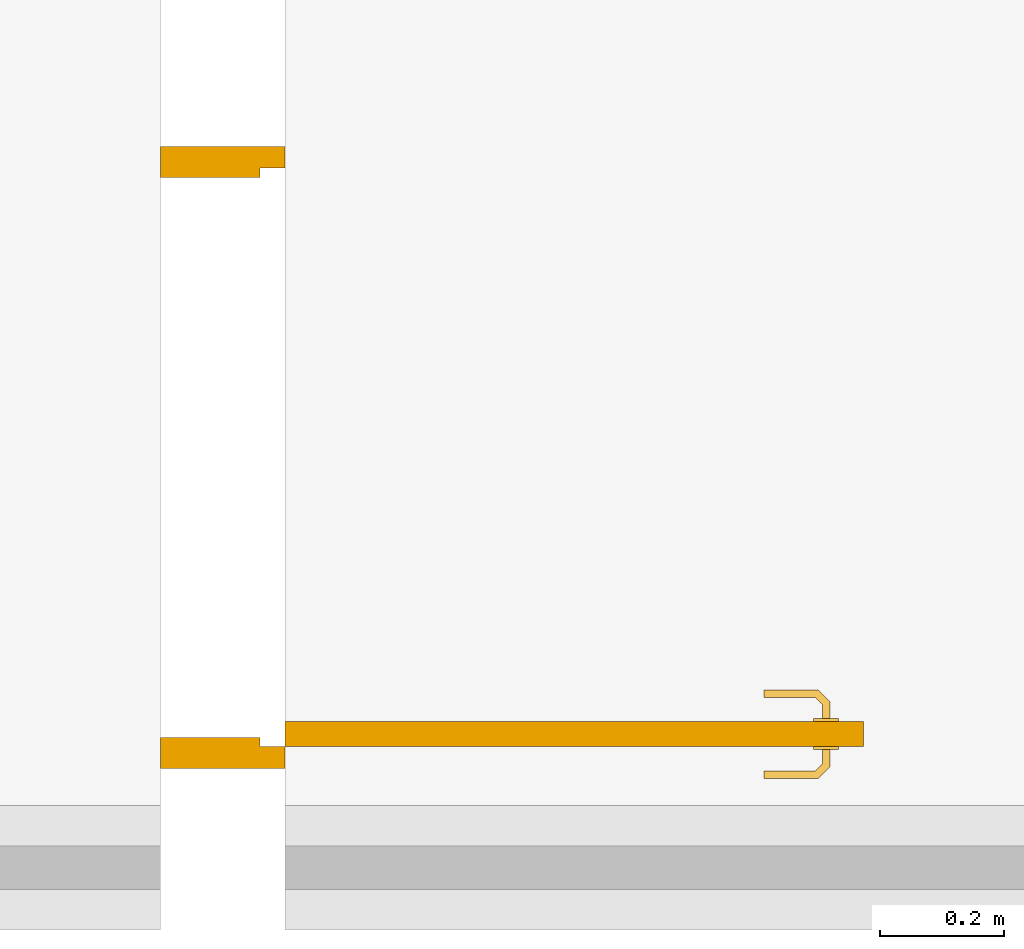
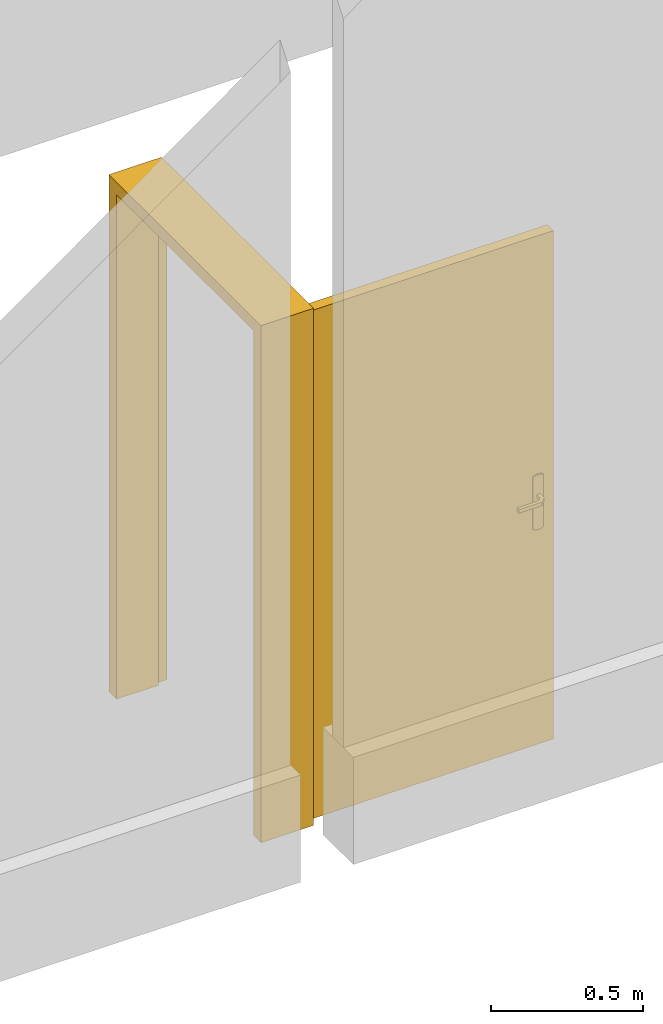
# One storey, part 17 of 18: 1 door.
"""IFC2X3 building model written with IfcOpenShell, lengths in metres."""

import ifcopenshell
import ifcopenshell.guid

model = None  # the IFC model being written
_history = None  # IfcOwnerHistory: only IFC2X3 demands one
_inside = {}  # id of a spatial element -> (the spatial element, [elements in it])
_under = {}  # id of a project, library or spatial element -> (it, [spatial elements below it])
_declared = {}  # id of a project -> (the project, [libraries it declares])
_typed = {}  # id of a type object -> (the type object, [elements of that type])
_made_of = {}  # id of a material, layer set ... -> (it, [elements and type objects made of it])


def new_model(schema):
    """Start an empty IFC model of exactly this schema.

    Asked for "IFC4X3", IfcOpenShell would pick the latest addendum, in which some entities
    have other attributes; the version numbers below select the first issue.
    IFC2X3 requires an IfcOwnerHistory on every rooted entity: one is made here for all.
    """
    global model, _history
    if schema == "IFC4X3":
        model = ifcopenshell.file(schema_version=(4, 3, 0, 0))
    else:
        model = ifcopenshell.file(schema=schema)
    _inside.clear()
    _under.clear()
    _declared.clear()
    _typed.clear()
    _made_of.clear()
    _history = None
    if model.schema == "IFC2X3":
        org = make("IfcOrganization", Name="unknown")
        user = make(
            "IfcPersonAndOrganization",
            ThePerson=make("IfcPerson", FamilyName="unknown"),
            TheOrganization=org,
        )
        app = make(
            "IfcApplication",
            ApplicationDeveloper=org,
            Version="unknown",
            ApplicationFullName="unknown",
            ApplicationIdentifier="unknown",
        )
        _history = make(
            "IfcOwnerHistory",
            OwningUser=user,
            OwningApplication=app,
            ChangeAction="ADDED",
            CreationDate=0,
        )
    return model


def make(cls, **values):
    """One entity of the class cls with the attributes given. An attribute that is None is left unset."""
    return model.create_entity(
        cls, **{name: value for name, value in values.items() if value is not None}
    )


def entity(cls, *values):
    """Any entity or typed value of the class cls, its attributes in the order of the schema. None: left unset."""
    e = model.create_entity(cls)
    for i, value in enumerate(values):
        if value is not None:
            e[i] = value
    return e


def rooted(cls, **values):
    """An entity with a GlobalId (a new one), such as an element, a storey or a relation."""
    return make(cls, GlobalId=ifcopenshell.guid.new(), OwnerHistory=_history, **values)


def si_unit(unit_type, name, prefix=None):
    """IfcSIUnit, for example si_unit("LENGTHUNIT", "METRE", prefix="MILLI")."""
    return make("IfcSIUnit", UnitType=unit_type, Prefix=prefix, Name=name)


def converted_unit(unit_type, name, factor, base, dimensions=None, offset=None):
    """IfcConversionBasedUnit, such as the inch: factor (a typed value) times the base unit."""
    return make(
        "IfcConversionBasedUnit"
        if offset is None
        else "IfcConversionBasedUnitWithOffset",
        ConversionOffset=offset,
        Dimensions=None
        if dimensions is None
        else entity("IfcDimensionalExponents", *dimensions),
        UnitType=unit_type,
        Name=name,
        ConversionFactor=make(
            "IfcMeasureWithUnit", ValueComponent=factor, UnitComponent=base
        ),
    )


def derived_unit(unit_type, elements):
    """IfcDerivedUnit: a product of units, each with its exponent."""
    return make(
        "IfcDerivedUnit",
        Elements=[
            make("IfcDerivedUnitElement", Unit=unit, Exponent=power)
            for unit, power in elements
        ],
        UnitType=unit_type,
    )


def assignment(units):
    """IfcUnitAssignment: the units of a project."""
    return None if units is None else make("IfcUnitAssignment", Units=units)


def point(xyz):
    """IfcCartesianPoint."""
    return None if xyz is None else make("IfcCartesianPoint", Coordinates=xyz)


def direction(xyz):
    """IfcDirection."""
    return None if xyz is None else make("IfcDirection", DirectionRatios=xyz)


def frame(location, z_axis=None, x_axis=None):
    """IfcAxis2Placement3D, a coordinate frame: its origin and axes. An axis left out is left unset."""
    return make(
        "IfcAxis2Placement3D",
        Location=point(location),
        Axis=direction(z_axis),
        RefDirection=direction(x_axis),
    )


def origin():
    """The frame at (0, 0, 0) with its axes left unset."""
    return frame((0.0, 0.0, 0.0))


def place(relative_to, where):
    """IfcLocalPlacement: puts the frame where relative to a parent placement (None: the world)."""
    return make(
        "IfcLocalPlacement", PlacementRelTo=relative_to, RelativePlacement=where
    )


def context(
    kind, dimensions, precision=None, world=None, true_north=None, identifier=None
):
    """IfcGeometricRepresentationContext, for example the 3D "Model" context."""
    return make(
        "IfcGeometricRepresentationContext",
        ContextIdentifier=identifier,
        ContextType=kind,
        CoordinateSpaceDimension=dimensions,
        Precision=precision,
        WorldCoordinateSystem=world,
        TrueNorth=true_north,
    )


def subcontext(parent, identifier, kind, view, scale=None):
    """IfcGeometricRepresentationSubContext, for example "Body" below "Model"."""
    return make(
        "IfcGeometricRepresentationSubContext",
        ContextIdentifier=identifier,
        ContextType=kind,
        ParentContext=parent,
        TargetScale=scale,
        TargetView=view,
    )


def project(units=None, contexts=None):
    """IfcProject with its units and contexts."""
    return rooted(
        "IfcProject",
        Name="project",
        RepresentationContexts=contexts,
        UnitsInContext=assignment(units),
    )


def spatial(cls, under=None, at=None, **own):
    """A site, building, storey or space (cls), placed at a placement, below another one or the project."""
    s = rooted(cls, ObjectPlacement=at, **own)
    if under is not None:
        _under.setdefault(under.id(), (under, []))[1].append(s)
    return s


def faces_of(points, faces, orient=None, outer=None):
    """IfcFace entities. A face is a list of loops; a loop is a list of indices into points, from 0.

    orient and outer hold one flag for each loop. By default every Orientation is true, the
    first loop of a face is its IfcFaceOuterBound and the others are IfcFaceBound.
    """
    made = []
    for i, loops in enumerate(faces):
        bounds = []
        for j, loop in enumerate(loops):
            is_outer = j == 0 if outer is None else outer[i][j]
            bounds.append(
                make(
                    "IfcFaceOuterBound" if is_outer else "IfcFaceBound",
                    Bound=make("IfcPolyLoop", Polygon=[points[k] for k in loop]),
                    Orientation=True if orient is None else orient[i][j],
                )
            )
        made.append(make("IfcFace", Bounds=bounds))
    return made


def faceted_brep(points, faces, orient=None, outer=None, voids=None):
    """IfcFacetedBrep: a solid bounded by flat faces; with voids (closed shells), ...WithVoids."""
    shared = [point(p) for p in points]
    hull = make("IfcClosedShell", CfsFaces=faces_of(shared, faces, orient, outer))
    if voids is None:
        return make("IfcFacetedBrep", Outer=hull)
    return make(
        "IfcFacetedBrepWithVoids",
        Outer=hull,
        Voids=[
            make(cls, CfsFaces=faces_of(shared, fs, o, b)) for cls, fs, o, b in voids
        ],
    )


def shape(context_of_items, identifier, shape_type, items):
    """IfcShapeRepresentation: the items that make up one representation, for example the "Body"."""
    return make(
        "IfcShapeRepresentation",
        ContextOfItems=context_of_items,
        RepresentationIdentifier=identifier,
        RepresentationType=shape_type,
        Items=items,
    )


def source(mapping_origin, context_of_items, identifier, shape_type, items):
    """IfcRepresentationMap: a shape defined once, which mapped items show again and again."""
    return make(
        "IfcRepresentationMap",
        MappingOrigin=mapping_origin,
        MappedRepresentation=shape(context_of_items, identifier, shape_type, items),
    )


def transform(
    local_origin,
    x_axis=None,
    y_axis=None,
    z_axis=None,
    scale=None,
    scale2=None,
    scale3=None,
    uniform=True,
):
    """IfcCartesianTransformationOperator3D, or its non-uniform kind. x_axis, y_axis, z_axis: its Axis1, 2, 3."""
    if uniform:
        return make(
            "IfcCartesianTransformationOperator3D",
            Axis1=direction(x_axis),
            Axis2=direction(y_axis),
            LocalOrigin=point(local_origin),
            Scale=scale,
            Axis3=direction(z_axis),
        )
    return make(
        "IfcCartesianTransformationOperator3DnonUniform",
        Axis1=direction(x_axis),
        Axis2=direction(y_axis),
        LocalOrigin=point(local_origin),
        Scale=scale,
        Axis3=direction(z_axis),
        Scale2=scale2,
        Scale3=scale3,
    )


def mapped(mapping_source, mapping_target):
    """IfcMappedItem: shows the shape of a source again, moved by a transform."""
    return make(
        "IfcMappedItem", MappingSource=mapping_source, MappingTarget=mapping_target
    )


def material(Name=None, Category=None):
    """IfcMaterial."""
    return make("IfcMaterial", Name=Name, Category=Category)


def made_of(thing, what):
    """Note that an element or type object is made of a material, layer set ...; save() writes the relation."""
    if what is not None:
        _made_of.setdefault(what.id(), (what, []))[1].append(thing)
    return thing


def type_object(cls, material=None, **own):
    """A type object (cls), such as IfcWallType, which elements share."""
    return made_of(rooted(cls, **own), material)


def type_shapes(of_type, sources):
    """Give a type object the sources (RepresentationMaps) that its elements show as mapped items."""
    of_type.RepresentationMaps = sources


def element(
    cls,
    number,
    at=None,
    inside=None,
    cuts=None,
    type_object=None,
    material=None,
    context=None,
    identifier="Body",
    shape_type=None,
    held_by="IfcProductDefinitionShape",
    body=None,
    shapes=None,
    **own,
):
    """One element of the class cls, such as IfcWall. Its Tag is "e" and its number.

    at: its placement. inside: the storey or other place that contains it. cuts: it is an
    opening in that element (IfcRelVoidsElement). A single representation is given by context,
    identifier, shape_type and body (its items); several are given by shapes. held_by: the class
    of the entity that holds the representations. save() writes the other relations.
    """
    e = rooted(cls, Tag="e%d" % number, ObjectPlacement=at, **own)
    if body is not None:
        shapes = [shape(context, identifier, shape_type, body)]
    if shapes is not None:
        e.Representation = make(held_by, Representations=shapes)
    if inside is not None:
        _inside.setdefault(inside.id(), (inside, []))[1].append(e)
    if cuts is not None:
        rooted(
            "IfcRelVoidsElement", RelatingBuildingElement=cuts, RelatedOpeningElement=e
        )
    if type_object is not None:
        _typed.setdefault(type_object.id(), (type_object, []))[1].append(e)
    return made_of(e, material)


def aggregate(whole, parts):
    """IfcRelAggregates: a whole, such as a stair, and the parts it consists of."""
    return rooted("IfcRelAggregates", RelatingObject=whole, RelatedObjects=parts)


def save(model, path):
    """Write the relations noted so far, then the file.

    IfcRelAggregates (storeys below a building ...), IfcRelContainedInSpatialStructure (elements
    in a storey), IfcRelDefinesByType, IfcRelAssociatesMaterial and IfcRelDeclares: one each for
    every whole, place, type object, material and project.
    """
    for whole, parts in _under.values():
        aggregate(whole, parts)
    for where, things in _inside.values():
        rooted(
            "IfcRelContainedInSpatialStructure",
            RelatedElements=things,
            RelatingStructure=where,
        )
    for kind, things in _typed.values():
        rooted("IfcRelDefinesByType", RelatedObjects=things, RelatingType=kind)
    for what, things in _made_of.values():
        rooted("IfcRelAssociatesMaterial", RelatedObjects=things, RelatingMaterial=what)
    for by, libraries in _declared.values():
        rooted("IfcRelDeclares", RelatingContext=by, RelatedDefinitions=libraries)
    model.write(path)


model = new_model("IFC2X3")

# Units and contexts
model_context = context("Model", 3, precision=1e-05, world=origin(), true_north=direction((6.12303176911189e-17, 1.0)))
body_context = subcontext(model_context, "Body", "Model", "MODEL_VIEW")
ifc_project = project(units=[si_unit("LENGTHUNIT", "METRE"), si_unit("AREAUNIT", "SQUARE_METRE"), si_unit("VOLUMEUNIT", "CUBIC_METRE"), converted_unit("PLANEANGLEUNIT", "DEGREE", entity("IfcRatioMeasure", 0.0174532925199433), si_unit("PLANEANGLEUNIT", "RADIAN"), dimensions=[0, 0, 0, 0, 0, 0, 0]), si_unit("MASSUNIT", "GRAM", prefix="KILO"), derived_unit("MASSDENSITYUNIT", [(si_unit("MASSUNIT", "GRAM", prefix="KILO"), 1), (si_unit("LENGTHUNIT", "METRE"), -3)]), si_unit("TIMEUNIT", "SECOND"), si_unit("FREQUENCYUNIT", "HERTZ"), si_unit("THERMODYNAMICTEMPERATUREUNIT", "DEGREE_CELSIUS"), derived_unit("THERMALTRANSMITTANCEUNIT", [(si_unit("MASSUNIT", "GRAM", prefix="KILO"), 1), (si_unit("THERMODYNAMICTEMPERATUREUNIT", "KELVIN"), -1), (si_unit("TIMEUNIT", "SECOND"), -3)]), derived_unit("VOLUMETRICFLOWRATEUNIT", [(si_unit("LENGTHUNIT", "METRE"), 3), (si_unit("TIMEUNIT", "SECOND"), -1)]), si_unit("ELECTRICCURRENTUNIT", "AMPERE"), si_unit("ELECTRICVOLTAGEUNIT", "VOLT"), si_unit("POWERUNIT", "WATT"), si_unit("FORCEUNIT", "NEWTON", prefix="KILO"), si_unit("ILLUMINANCEUNIT", "LUX"), si_unit("LUMINOUSFLUXUNIT", "LUMEN"), si_unit("LUMINOUSINTENSITYUNIT", "CANDELA"), derived_unit("USERDEFINED", [(si_unit("MASSUNIT", "GRAM", prefix="KILO"), -1), (si_unit("LENGTHUNIT", "METRE"), -2), (si_unit("TIMEUNIT", "SECOND"), 3), (si_unit("LUMINOUSFLUXUNIT", "LUMEN"), 1)]), derived_unit("LINEARVELOCITYUNIT", [(si_unit("LENGTHUNIT", "METRE"), 1), (si_unit("TIMEUNIT", "SECOND"), -1)]), si_unit("PRESSUREUNIT", "PASCAL"), derived_unit("USERDEFINED", [(si_unit("LENGTHUNIT", "METRE"), -2), (si_unit("MASSUNIT", "GRAM", prefix="KILO"), 1), (si_unit("TIMEUNIT", "SECOND"), -2)])], contexts=[model_context])

# Site, building, storey
site_placement = place(None, origin())
site = spatial("IfcSite", under=ifc_project, at=site_placement, Name="Surface", CompositionType="ELEMENT")
building_placement = place(site_placement, origin())
building = spatial("IfcBuilding", under=site, at=building_placement, Name="ExPREF", CompositionType="ELEMENT")
storey_placement = place(building_placement, frame((0.0, 0.0, -4.62)))
storey = spatial("IfcBuildingStorey", under=building, at=storey_placement, Name="R-1", CompositionType="ELEMENT", Elevation=-4.62)

# Door
ifc_material = material(Name="AA-Blanc satiné")
door_style = type_object("IfcDoorStyle", Name="PP (0.93m x 2.04m)", ConstructionType="NOTDEFINED", OperationType="SINGLE_SWING_RIGHT", ParameterTakesPrecedence=False, Sizeable=False, material=ifc_material)
shared_shape = source(origin(), body_context, "Body", "Brep", [
    faceted_brep([(0.150000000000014, -0.867974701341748, 0.992219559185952), (0.150000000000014, -0.872025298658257, 0.99221955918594), (0.150000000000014, -0.876000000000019, 0.992999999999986), (0.150000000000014, -0.876000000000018, 1.007), (0.150000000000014, -0.872025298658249, 1.00778044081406), (0.150000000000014, -0.867974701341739, 1.00778044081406), (0.150000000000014, -0.863999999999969, 1.007), (0.150000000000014, -0.863999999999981, 0.993000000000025), (0.172485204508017, -0.863999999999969, 1.007), (0.172485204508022, -0.863999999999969, 0.993000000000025), (0.174131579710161, -0.867974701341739, 1.00778044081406), (0.175809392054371, -0.872025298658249, 1.00778044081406), (0.191995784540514, -0.855838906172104, 1.00778044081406), (0.187945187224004, -0.854161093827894, 1.00778044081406), (0.177455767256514, -0.876000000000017, 1.007), (0.177455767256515, -0.876000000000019, 0.992999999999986), (0.175809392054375, -0.872025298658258, 0.99221955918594), (0.174131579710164, -0.867974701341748, 0.992219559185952), (0.187945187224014, -0.854161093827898, 0.992219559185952), (0.191995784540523, -0.855838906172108, 0.99221955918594), (0.183970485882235, -0.852514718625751, 1.007), (0.183970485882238, -0.852514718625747, 0.993000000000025), (0.195970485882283, -0.857485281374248, 1.007), (0.195970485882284, -0.857485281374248, 0.992999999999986), (0.187945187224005, -0.769954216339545, 1.00778044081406), (0.191995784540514, -0.769954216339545, 1.00778044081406), (0.195970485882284, -0.769954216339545, 1.007), (0.195970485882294, -0.769954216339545, 0.992999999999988), (0.191995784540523, -0.769954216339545, 0.99221955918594), (0.187945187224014, -0.769954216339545, 0.992219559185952), (0.183970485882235, -0.769954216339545, 0.993000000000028), (0.183970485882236, -0.769954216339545, 1.007), (0.183970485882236, -0.811234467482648, 1.007), (0.183970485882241, -0.811234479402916, 0.993000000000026), (0.189970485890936, -0.812057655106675, 1.0078786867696), (0.195970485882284, -0.817554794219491, 1.007), (0.195970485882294, -0.8175547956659, 0.992999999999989), (0.189970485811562, -0.812057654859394, 0.992121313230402)], [[[0, 1, 2, 3, 4, 5, 6, 7]], [[8, 9, 7, 6]], [[5, 10, 8, 6]], [[5, 4, 11, 12, 13, 10]], [[3, 14, 11, 4]], [[14, 3, 2, 15]], [[2, 1, 16, 15]], [[1, 0, 17, 18, 19, 16]], [[0, 7, 9, 17]], [[20, 21, 9, 8]], [[8, 10, 13, 20]], [[14, 22, 12, 11]], [[23, 22, 14, 15]], [[15, 16, 19, 23]], [[17, 9, 21, 18]], [[24, 25, 26, 27, 28, 29, 30, 31]], [[21, 20, 32, 31, 30, 33]], [[34, 24, 32]], [[25, 34, 35]], [[13, 32, 20]], [[24, 31, 32]], [[25, 35, 26]], [[35, 12, 22]], [[34, 12, 35]], [[34, 13, 12]], [[34, 32, 13]], [[24, 34, 25]], [[22, 23, 36, 27, 26, 35]], [[37, 28, 36]], [[36, 28, 27]], [[36, 23, 19]], [[18, 33, 37]], [[33, 18, 21]], [[30, 29, 33]], [[37, 29, 28]], [[37, 33, 29]], [[37, 36, 19]], [[18, 37, 19]]]),
    faceted_brep([(0.100000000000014, -0.867974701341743, 1.00778044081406), (0.100000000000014, -0.872025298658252, 1.00778044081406), (0.100000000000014, -0.876000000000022, 1.00699999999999), (0.100000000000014, -0.876000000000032, 0.992999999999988), (0.100000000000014, -0.87202529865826, 0.99221955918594), (0.100000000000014, -0.867974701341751, 0.992219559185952), (0.100000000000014, -0.863999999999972, 0.993000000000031), (0.100000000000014, -0.863999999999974, 1.007), (0.0739954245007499, -0.872025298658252, 1.00778044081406), (0.0723490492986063, -0.876000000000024, 1.007), (0.0756732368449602, -0.867974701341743, 1.00778044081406), (0.0619971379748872, -0.854298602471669, 1.00778044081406), (0.0579465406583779, -0.855976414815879, 1.00778044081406), (0.0773196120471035, -0.863999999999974, 1.007), (0.0773196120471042, -0.863999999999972, 0.993000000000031), (0.0756732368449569, -0.867974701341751, 0.992219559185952), (0.0739954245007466, -0.87202529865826, 0.99221955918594), (0.0579465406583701, -0.855976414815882, 0.99221955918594), (0.0619971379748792, -0.854298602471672, 0.992219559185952), (0.0723490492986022, -0.876000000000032, 0.992999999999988), (0.053971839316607, -0.857622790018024, 1.007), (0.0659718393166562, -0.852652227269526, 1.007), (0.0659718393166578, -0.852652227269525, 0.993000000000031), (0.0539718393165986, -0.857622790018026, 0.992999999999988), (0.0539718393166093, -0.769981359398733, 1.007), (0.0579465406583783, -0.769981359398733, 1.00778044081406), (0.0619971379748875, -0.769981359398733, 1.00778044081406), (0.0659718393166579, -0.769981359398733, 1.00699999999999), (0.0659718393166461, -0.769981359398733, 0.993000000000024), (0.0619971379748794, -0.769981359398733, 0.992219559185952), (0.0579465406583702, -0.769981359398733, 0.99221955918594), (0.0539718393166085, -0.769981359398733, 0.992999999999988), (0.059971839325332, -0.812139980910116, 1.0078786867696), (0.0539718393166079, -0.817692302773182, 1.007), (0.065971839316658, -0.811316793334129, 1.007), (0.0659718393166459, -0.811316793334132, 0.993000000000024), (0.0599718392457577, -0.812139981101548, 0.992121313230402), (0.0539718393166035, -0.817692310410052, 0.992999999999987)], [[[0, 1, 2, 3, 4, 5, 6, 7]], [[2, 1, 8, 9]], [[1, 0, 10, 11, 12, 8]], [[0, 7, 13, 10]], [[14, 13, 7, 6]], [[5, 15, 14, 6]], [[5, 4, 16, 17, 18, 15]], [[3, 19, 16, 4]], [[9, 19, 3, 2]], [[9, 8, 12, 20]], [[10, 13, 21, 11]], [[22, 21, 13, 14]], [[14, 15, 18, 22]], [[16, 19, 23, 17]], [[20, 23, 19, 9]], [[24, 25, 26, 27, 28, 29, 30, 31]], [[32, 25, 33]], [[33, 25, 24]], [[33, 20, 12]], [[11, 34, 32]], [[34, 11, 21]], [[27, 26, 34]], [[32, 26, 25]], [[32, 34, 26]], [[32, 33, 12]], [[11, 32, 12]], [[21, 22, 35, 28, 27, 34]], [[36, 29, 35]], [[30, 36, 37]], [[18, 35, 22]], [[29, 28, 35]], [[30, 37, 31]], [[37, 17, 23]], [[36, 17, 37]], [[36, 18, 17]], [[36, 35, 18]], [[29, 36, 30]], [[23, 20, 33, 24, 31, 37]]]),
    faceted_brep([(0.145000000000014, -0.89, 0.870000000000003), (0.145000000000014, -0.89, 1.08), (0.145000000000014, -0.880352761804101, 1.08399601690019), (0.145000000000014, -0.870000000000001, 1.08535898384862), (0.145000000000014, -0.8596472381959, 1.08399601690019), (0.145000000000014, -0.850000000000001, 1.08), (0.145000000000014, -0.849999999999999, 0.870000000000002), (0.145000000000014, -0.859647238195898, 0.866003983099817), (0.145000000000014, -0.869999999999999, 0.86464101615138), (0.145000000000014, -0.8803527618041, 0.866003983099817), (0.150000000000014, -0.870000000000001, 1.08535898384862), (0.150000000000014, -0.880352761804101, 1.08399601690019), (0.150000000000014, -0.89, 1.08), (0.150000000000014, -0.889999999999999, 0.870000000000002), (0.150000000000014, -0.8803527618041, 0.866003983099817), (0.150000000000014, -0.869999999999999, 0.86464101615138), (0.150000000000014, -0.859647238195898, 0.866003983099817), (0.150000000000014, -0.849999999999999, 0.870000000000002), (0.150000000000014, -0.850000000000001, 1.08), (0.150000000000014, -0.8596472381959, 1.08399601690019)], [[[0, 1, 2, 3, 4, 5, 6, 7, 8, 9]], [[10, 11, 12, 13, 14, 15, 16, 17, 18, 19]], [[4, 19, 18, 5]], [[3, 10, 19, 4]], [[2, 11, 10, 3]], [[2, 1, 12, 11]], [[13, 12, 1, 0]], [[9, 14, 13, 0]], [[8, 15, 14, 9]], [[7, 16, 15, 8]], [[7, 6, 17, 16]], [[17, 6, 5, 18]]]),
    faceted_brep([(0.100000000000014, -0.89, 0.870000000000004), (0.100000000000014, -0.89, 1.08), (0.100000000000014, -0.880352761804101, 1.08399601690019), (0.100000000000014, -0.87, 1.08535898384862), (0.100000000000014, -0.8596472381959, 1.08399601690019), (0.100000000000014, -0.850000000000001, 1.08), (0.100000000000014, -0.849999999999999, 0.870000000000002), (0.100000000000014, -0.859647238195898, 0.866003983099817), (0.100000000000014, -0.869999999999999, 0.86464101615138), (0.100000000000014, -0.8803527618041, 0.866003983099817), (0.105000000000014, -0.89, 1.08), (0.105000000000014, -0.889999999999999, 0.870000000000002), (0.105000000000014, -0.8803527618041, 0.866003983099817), (0.105000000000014, -0.869999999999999, 0.86464101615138), (0.105000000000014, -0.859647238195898, 0.866003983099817), (0.105000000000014, -0.849999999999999, 0.870000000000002), (0.105000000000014, -0.850000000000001, 1.08), (0.105000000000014, -0.8596472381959, 1.08399601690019), (0.105000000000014, -0.87, 1.08535898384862), (0.105000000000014, -0.880352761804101, 1.08399601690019)], [[[0, 1, 2, 3, 4, 5, 6, 7, 8, 9]], [[10, 11, 12, 13, 14, 15, 16, 17, 18, 19]], [[9, 12, 11, 0]], [[8, 13, 12, 9]], [[7, 14, 13, 8]], [[7, 6, 15, 14]], [[15, 6, 5, 16]], [[4, 17, 16, 5]], [[3, 18, 17, 4]], [[2, 19, 18, 3]], [[2, 1, 10, 19]], [[11, 10, 1, 0]]]),
    faceted_brep([(0.145000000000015, -0.93, 2.04), (0.145000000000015, -0.93, 0.0), (0.145000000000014, 0.0, 0.0), (0.145000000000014, 0.0, 2.04), (0.105000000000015, -0.93, 2.04), (0.105000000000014, 0.0, 2.04), (0.105000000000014, 0.0, 0.0), (0.105000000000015, -0.93, 0.0)], [[[0, 1, 2, 3]], [[4, 5, 6, 7]], [[3, 5, 4, 0]], [[2, 6, 5, 3]], [[1, 7, 6, 2]], [[0, 4, 7, 1]]]),
    faceted_brep([(1.07000000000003, 0.0, 0.0), (1.03500000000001, 0.0, 0.0), (1.03500000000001, 0.040000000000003, 0.0), (1.02000000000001, 0.040000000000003, 0.0), (1.02000000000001, 0.200000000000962, 0.0), (1.07000000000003, 0.200000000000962, 0.0), (1.07000000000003, 0.200000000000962, 2.07500000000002), (1.07000000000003, 0.0, 2.07500000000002), (1.02000000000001, 0.200000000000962, 2.025), (0.120000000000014, 0.200000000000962, 2.025), (0.120000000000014, 0.200000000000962, 0.0), (0.0699999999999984, 0.200000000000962, 0.0), (0.0699999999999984, 0.200000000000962, 2.07500000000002), (1.02000000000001, 0.040000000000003, 2.025), (1.03500000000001, 0.040000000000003, 2.04), (0.105000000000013, 0.040000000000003, 2.04), (0.105000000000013, 0.040000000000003, 0.0), (0.120000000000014, 0.040000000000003, 0.0), (0.120000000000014, 0.040000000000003, 2.025), (1.03500000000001, 0.0, 2.04), (0.0699999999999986, 0.0, 2.07500000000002), (0.0699999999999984, 0.0, 0.0), (0.105000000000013, 0.0, 0.0), (0.105000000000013, 0.0, 2.04)], [[[0, 1, 2, 3, 4, 5]], [[5, 6, 7, 0]], [[4, 8, 9, 10, 11, 12, 6, 5]], [[3, 13, 8, 4]], [[2, 14, 15, 16, 17, 18, 13, 3]], [[1, 19, 14, 2]], [[0, 7, 20, 21, 22, 23, 19, 1]], [[12, 11, 21, 20]], [[21, 11, 10, 17, 16, 22]], [[18, 17, 10, 9]], [[23, 22, 16, 15]], [[6, 12, 20, 7]], [[13, 18, 9, 8]], [[19, 23, 15, 14]]]),
])
type_shapes(door_style, [shared_shape])
door_placement = place(storey_placement, frame((53.5897436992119, -189.118069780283, 0.0), z_axis=(0.0, 0.0, 1.0), x_axis=(0.0, 1.0, 0.0)))
element("IfcDoor", 1, at=door_placement, inside=storey, type_object=door_style, material=ifc_material, Name="Porte intérieur bois:PP (0.93m x 2.04m)", ObjectType="PP (0.93m x 2.04m)", OverallHeight=2.07500000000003, OverallWidth=1.01602816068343, context=body_context, shape_type="MappedRepresentation", body=[
    mapped(shared_shape, transform((0.0, 0.0, 0.0), scale=1.0)),
])

save(model, "model.ifc")
